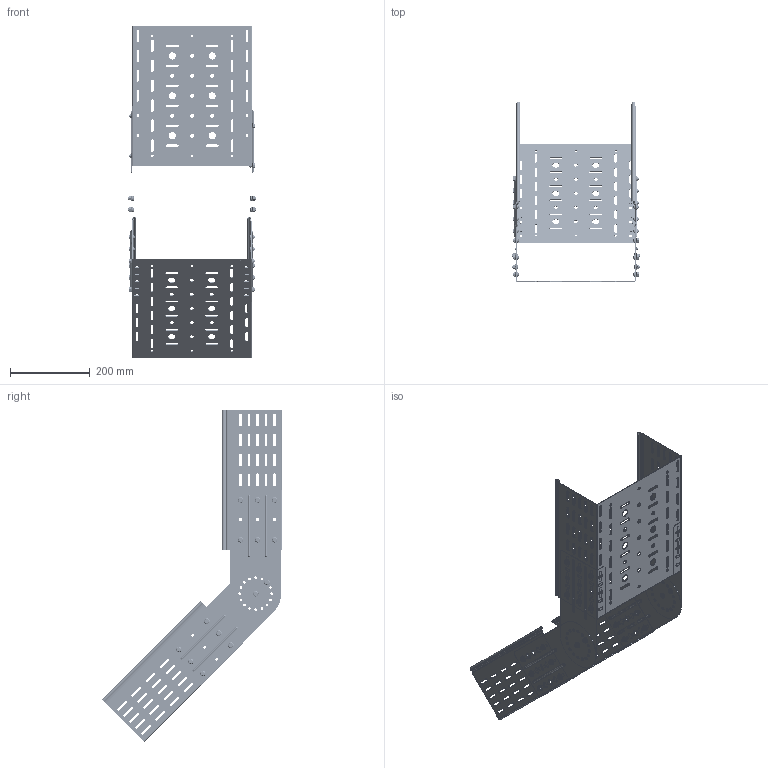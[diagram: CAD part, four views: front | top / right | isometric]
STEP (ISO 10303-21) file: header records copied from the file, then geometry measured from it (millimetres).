
FILE_DESCRIPTION (( 'STEP AP214' ), '1' );
FILE_NAME ('ﾑﾋﾓﾘ+ﾓﾋ(ﾏ)_150.STEP', '2016-10-06T20:52:49', ( '' ), ( '' ), 'SwSTEP 2.0', 'SolidWorks 2016', '' );
FILE_SCHEMA (( 'AUTOMOTIVE_DESIGN' ));
Length unit declared in the file: millimetre
Products named in the file (6): hex flange nut_din_Hexagon Flange Nut DIN 6923 - M6 - N; pan head cross recess screw_din_ISO 7045 - M6 x 10 - Z --- 10N; 捀衯_50_谾謤_150; 083815-083830 捀衯  蚎_150; ÓË(Ï)-300õÍõ550_3000.1,5.300.150; ﾑﾋﾓﾘ+ﾓﾋ(ﾏ)_150
Assembly tree (62 placements, depth 2):
  ﾑﾋﾓﾘ+ﾓﾋ(ﾏ)_150
    ÓË(Ï)-300õÍõ550_3000.1,5.300.150  x2
    083815-083830 捀衯  蚎_150  x2
    捀衯_50_谾謤_150  x2
    pan head cross recess screw_din_ISO 7045 - M6 x 10 - Z --- 10N  x28
    hex flange nut_din_Hexagon Flange Nut DIN 6923 - M6 - N  x28
Bounding box: 319 x 451.44 x 831.41 mm (x, y, z)
Volume: 779593.8 mm3; surface area: 1180459.6 mm2
Topology: 62 solids, 62 shells, 3744 faces, 9772 edges, 6108 vertices
Faces by surface type: plane 1472, cylinder 1296, cone 504, torus 216, bspline 168, sphere 88
Entity records: 34722 total; most frequent: DIRECTION 6154, CARTESIAN_POINT 6092, ORIENTED_EDGE 5700, EDGE_CURVE 2850, AXIS2_PLACEMENT_3D 2271, VERTEX_POINT 1855, VECTOR 1612, LINE 1612
